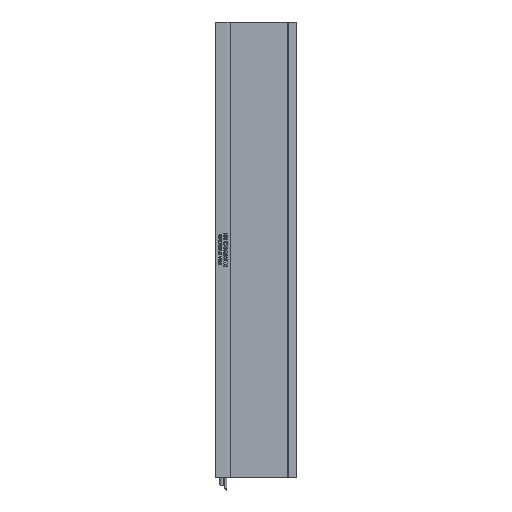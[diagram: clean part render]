
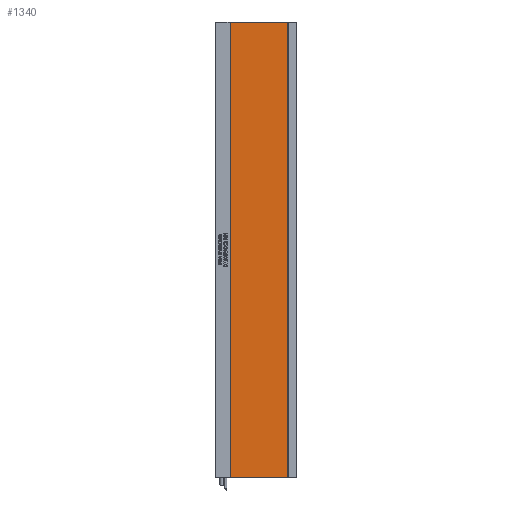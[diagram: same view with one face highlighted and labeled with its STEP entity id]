
A CAD part, left-side view. The second image highlights one B-rep face of the part: STEP entity #1340.
In plain terms, the highlighted planar face has unit normal (-1, 0, 0).
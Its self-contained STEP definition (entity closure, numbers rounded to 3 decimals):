
#504 = VERTEX_POINT ( 'NONE', #645 ) ;
#645 = CARTESIAN_POINT ( 'NONE',  ( -5.8, 104.7, 0. ) ) ;
#721 = ORIENTED_EDGE ( 'NONE', *, *, #18428, .T. ) ;
#1236 = DIRECTION ( 'NONE',  ( -1., 0., 0. ) ) ;
#1340 = ADVANCED_FACE ( 'NONE', ( #25378 ), #19815, .T. ) ;
#1434 = CARTESIAN_POINT ( 'NONE',  ( -5.8, 14.2, 721. ) ) ;
#1563 = ORIENTED_EDGE ( 'NONE', *, *, #36726, .T. ) ;
#4824 = DIRECTION ( 'NONE',  ( 0., 0., -1. ) ) ;
#7199 = EDGE_CURVE ( 'NONE', #16334, #20436, #38917, .T. ) ;
#7308 = CARTESIAN_POINT ( 'NONE',  ( -5.8, 14.2, 721. ) ) ;
#8192 = DIRECTION ( 'NONE',  ( 0., 1., 0. ) ) ;
#11409 = EDGE_LOOP ( 'NONE', ( #25091, #33925, #721, #1563 ) ) ;
#11961 = CARTESIAN_POINT ( 'NONE',  ( -5.8, 104.7, 721. ) ) ;
#13413 = EDGE_CURVE ( 'NONE', #20436, #504, #14483, .T. ) ;
#14483 = LINE ( 'NONE', #26740, #15479 ) ;
#15118 = DIRECTION ( 'NONE',  ( 0., 0., -1. ) ) ;
#15479 = VECTOR ( 'NONE', #8192, 1000. ) ;
#16334 = VERTEX_POINT ( 'NONE', #37413 ) ;
#17523 = CARTESIAN_POINT ( 'NONE',  ( -5.8, 14.2, 721. ) ) ;
#18428 = EDGE_CURVE ( 'NONE', #16334, #24314, #35058, .T. ) ;
#19588 = VECTOR ( 'NONE', #20015, 1000. ) ;
#19815 = PLANE ( 'NONE',  #34368 ) ;
#20015 = DIRECTION ( 'NONE',  ( 0., 1., 0. ) ) ;
#20436 = VERTEX_POINT ( 'NONE', #26765 ) ;
#22288 = LINE ( 'NONE', #11961, #37723 ) ;
#22564 = VECTOR ( 'NONE', #4824, 1000. ) ;
#22925 = DIRECTION ( 'NONE',  ( 0., 0., 1. ) ) ;
#24314 = VERTEX_POINT ( 'NONE', #37191 ) ;
#25091 = ORIENTED_EDGE ( 'NONE', *, *, #13413, .F. ) ;
#25378 = FACE_OUTER_BOUND ( 'NONE', #11409, .T. ) ;
#26740 = CARTESIAN_POINT ( 'NONE',  ( -5.8, 14.2, 0. ) ) ;
#26765 = CARTESIAN_POINT ( 'NONE',  ( -5.8, 14.2, 0. ) ) ;
#33925 = ORIENTED_EDGE ( 'NONE', *, *, #7199, .F. ) ;
#34368 = AXIS2_PLACEMENT_3D ( 'NONE', #7308, #1236, #22925 ) ;
#35058 = LINE ( 'NONE', #1434, #19588 ) ;
#36726 = EDGE_CURVE ( 'NONE', #24314, #504, #22288, .T. ) ;
#37191 = CARTESIAN_POINT ( 'NONE',  ( -5.8, 104.7, 721. ) ) ;
#37413 = CARTESIAN_POINT ( 'NONE',  ( -5.8, 14.2, 721. ) ) ;
#37723 = VECTOR ( 'NONE', #15118, 1000. ) ;
#38917 = LINE ( 'NONE', #17523, #22564 ) ;
